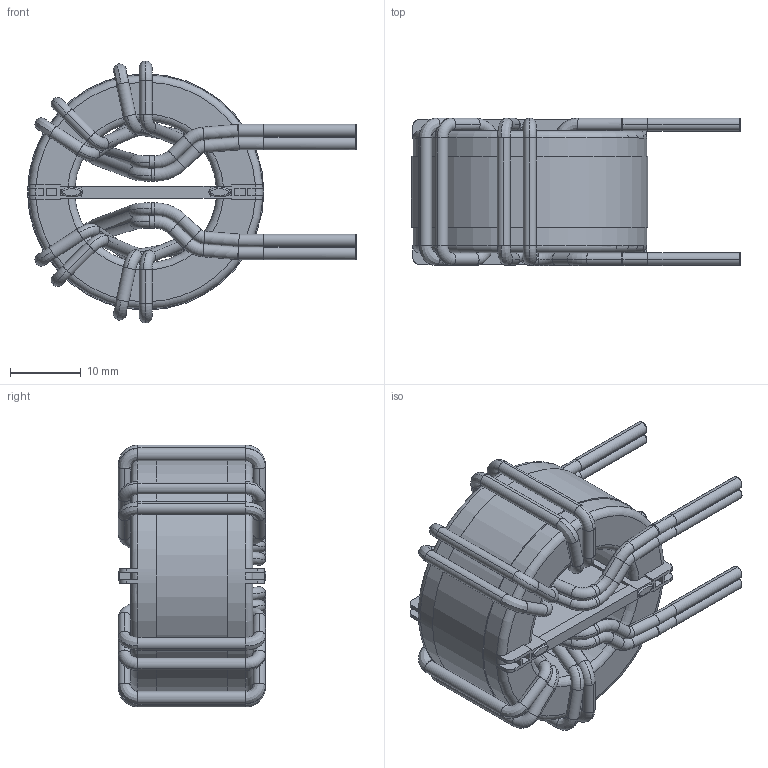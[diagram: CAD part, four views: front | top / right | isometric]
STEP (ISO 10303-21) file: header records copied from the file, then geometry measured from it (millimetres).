
FILE_DESCRIPTION (( 'STEP AP203' ), '1' );
FILE_NAME ('HN-V-901U-40A.STEP', '2020-07-02T08:56:51', ( 'Windows User' ), ( '' ), 'SwSTEP 2.0', 'SolidWorks 2015', '' );
FILE_SCHEMA (( 'CONFIG_CONTROL_DESIGN' ));
Length unit declared in the file: inch
Products named in the file (4): HN-V-901U-40A - FRAME; HN-V-901U-40A; HN-V-901U-40A - COIL; HN-V-901U-40A - CORE
Assembly tree (3 placements, depth 2):
  HN-V-901U-40A
    HN-V-901U-40A - CORE
    HN-V-901U-40A - COIL
    HN-V-901U-40A - FRAME
Bounding box: 46.44 x 20.85 x 36.96 mm (x, y, z)
Volume: 11817.4 mm3; surface area: 11584.3 mm2
Topology: 27 solids, 27 shells, 535 faces, 1317 edges, 838 vertices
Faces by surface type: plane 168, cylinder 155, torus 140, bspline 72
Entity records: 19585 total; most frequent: CARTESIAN_POINT 6671, DIRECTION 2719, ORIENTED_EDGE 2634, EDGE_CURVE 1317, AXIS2_PLACEMENT_3D 1108, VERTEX_POINT 838, CIRCLE 639, EDGE_LOOP 541
